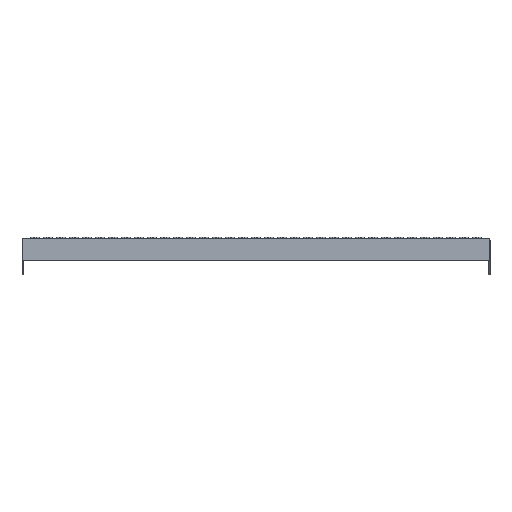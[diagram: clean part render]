
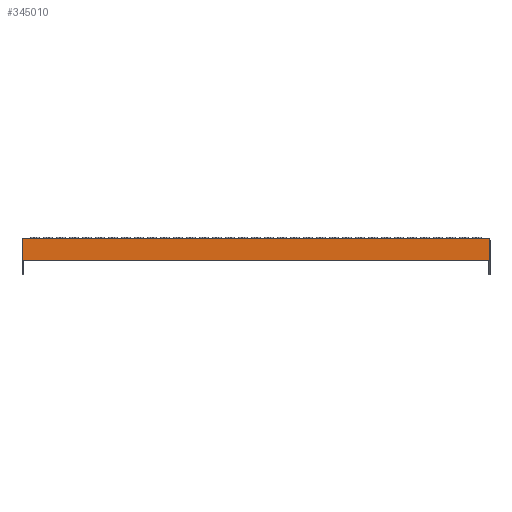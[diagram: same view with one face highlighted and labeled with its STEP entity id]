
A CAD part, front view. The second image highlights one B-rep face of the part: STEP entity #345010.
In plain terms, the highlighted planar face has unit normal (0, -1, 0).
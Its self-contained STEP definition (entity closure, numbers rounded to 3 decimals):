
#345010 = ADVANCED_FACE('',(#345011),#345025,.T.);
#345011 = FACE_BOUND('',#345012,.T.);
#345012 = EDGE_LOOP('',(#345013,#345036,#345052,#345068));
#345013 = ORIENTED_EDGE('',*,*,#345014,.T.);
#345014 = EDGE_CURVE('',#345015,#345017,#345019,.T.);
#345015 = VERTEX_POINT('',#345016);
#345016 = CARTESIAN_POINT('',(6900.,8770.,
    0.));
#345017 = VERTEX_POINT('',#345018);
#345018 = CARTESIAN_POINT('',(6000.,8770.,
    0.));
#345019 = SURFACE_CURVE('',#345020,(#345024),.PCURVE_S1.);
#345020 = LINE('',#345021,#345022);
#345021 = CARTESIAN_POINT('',(6900.,8770.,
    0.));
#345022 = VECTOR('',#345023,1.);
#345023 = DIRECTION('',(-1.,0.,0.));
#345024 = PCURVE('',#345025,#345030);
#345025 = PLANE('',#345026);
#345026 = AXIS2_PLACEMENT_3D('',#345027,#345028,#345029);
#345027 = CARTESIAN_POINT('',(6450.,8770.,
    -21.25));
#345028 = DIRECTION('',(-0.,-1.,-0.));
#345029 = DIRECTION('',(0.,0.,-1.));
#345030 = DEFINITIONAL_REPRESENTATION('',(#345031),#345035);
#345031 = LINE('',#345032,#345033);
#345032 = CARTESIAN_POINT('',(-21.25,450.));
#345033 = VECTOR('',#345034,1.);
#345034 = DIRECTION('',(0.,-1.));
#345035 = ( GEOMETRIC_REPRESENTATION_CONTEXT(2) 
PARAMETRIC_REPRESENTATION_CONTEXT() REPRESENTATION_CONTEXT('2D SPACE',''
  ) );
#345036 = ORIENTED_EDGE('',*,*,#345037,.T.);
#345037 = EDGE_CURVE('',#345017,#345038,#345040,.T.);
#345038 = VERTEX_POINT('',#345039);
#345039 = CARTESIAN_POINT('',(6000.,8770.,-42.5)
  );
#345040 = SURFACE_CURVE('',#345041,(#345045),.PCURVE_S1.);
#345041 = LINE('',#345042,#345043);
#345042 = CARTESIAN_POINT('',(6000.,8770.,
    0.));
#345043 = VECTOR('',#345044,1.);
#345044 = DIRECTION('',(0.,0.,-1.));
#345045 = PCURVE('',#345025,#345046);
#345046 = DEFINITIONAL_REPRESENTATION('',(#345047),#345051);
#345047 = LINE('',#345048,#345049);
#345048 = CARTESIAN_POINT('',(-21.25,-450.));
#345049 = VECTOR('',#345050,1.);
#345050 = DIRECTION('',(1.,0.));
#345051 = ( GEOMETRIC_REPRESENTATION_CONTEXT(2) 
PARAMETRIC_REPRESENTATION_CONTEXT() REPRESENTATION_CONTEXT('2D SPACE',''
  ) );
#345052 = ORIENTED_EDGE('',*,*,#345053,.T.);
#345053 = EDGE_CURVE('',#345038,#345054,#345056,.T.);
#345054 = VERTEX_POINT('',#345055);
#345055 = CARTESIAN_POINT('',(6900.,8770.,
    -42.5));
#345056 = SURFACE_CURVE('',#345057,(#345061),.PCURVE_S1.);
#345057 = LINE('',#345058,#345059);
#345058 = CARTESIAN_POINT('',(6000.,8770.,-42.5)
  );
#345059 = VECTOR('',#345060,1.);
#345060 = DIRECTION('',(1.,0.,0.));
#345061 = PCURVE('',#345025,#345062);
#345062 = DEFINITIONAL_REPRESENTATION('',(#345063),#345067);
#345063 = LINE('',#345064,#345065);
#345064 = CARTESIAN_POINT('',(21.25,-450.));
#345065 = VECTOR('',#345066,1.);
#345066 = DIRECTION('',(0.,1.));
#345067 = ( GEOMETRIC_REPRESENTATION_CONTEXT(2) 
PARAMETRIC_REPRESENTATION_CONTEXT() REPRESENTATION_CONTEXT('2D SPACE',''
  ) );
#345068 = ORIENTED_EDGE('',*,*,#345069,.T.);
#345069 = EDGE_CURVE('',#345054,#345015,#345070,.T.);
#345070 = SURFACE_CURVE('',#345071,(#345075),.PCURVE_S1.);
#345071 = LINE('',#345072,#345073);
#345072 = CARTESIAN_POINT('',(6900.,8770.,
    -42.5));
#345073 = VECTOR('',#345074,1.);
#345074 = DIRECTION('',(0.,0.,1.));
#345075 = PCURVE('',#345025,#345076);
#345076 = DEFINITIONAL_REPRESENTATION('',(#345077),#345081);
#345077 = LINE('',#345078,#345079);
#345078 = CARTESIAN_POINT('',(21.25,450.));
#345079 = VECTOR('',#345080,1.);
#345080 = DIRECTION('',(-1.,0.));
#345081 = ( GEOMETRIC_REPRESENTATION_CONTEXT(2) 
PARAMETRIC_REPRESENTATION_CONTEXT() REPRESENTATION_CONTEXT('2D SPACE',''
  ) );
